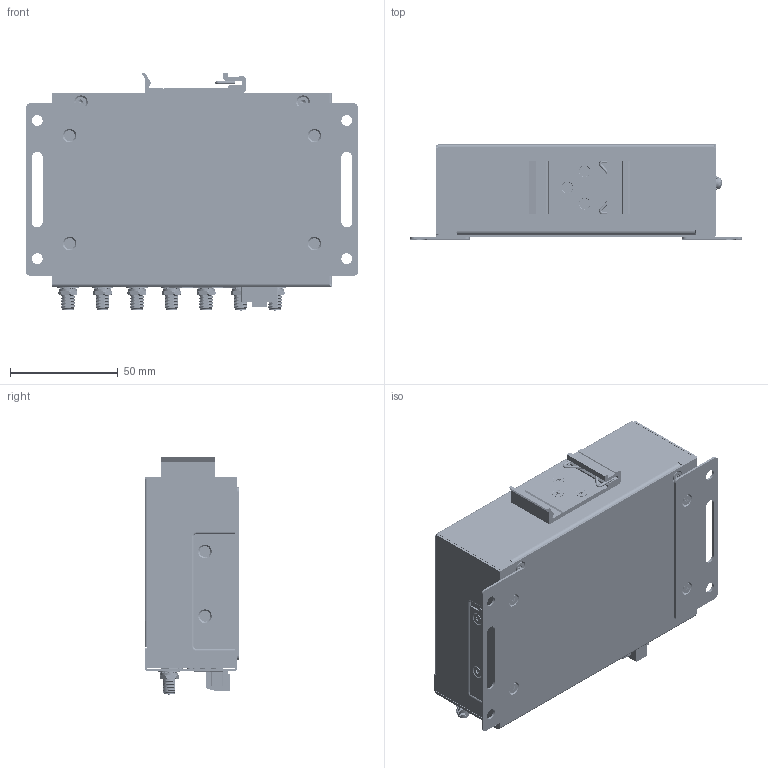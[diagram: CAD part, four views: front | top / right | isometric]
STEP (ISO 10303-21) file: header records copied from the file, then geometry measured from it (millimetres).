
FILE_DESCRIPTION (( 'STEP AP214' ), '1' );
FILE_NAME ('ICR-4171W.STEP', '2024-11-05T08:48:55', ( '' ), ( '' ), 'SwSTEP 2.0', 'SolidWorks 2024', '' );
FILE_SCHEMA (( 'AUTOMOTIVE_DESIGN' ));
Length unit declared in the file: millimetre
Products named in the file (49): SCR_ZC_M3_L6_PH_PW_2; Pin_header_6x2P; ANT_PG_L150_SMA_I; ChassisBottom; PCB_ICR-4(1,2)xx; Radial_THT_Capacitor; ThermalTape; Case_for_ICR-4(1,2)xx; SCR_BK_M3_L4_TX8_FL_SCR; PCI_Female_Connector_67P; Label_SIM_SD_IO_configuration_SIM; ICR-4171W; ChassisSimCover; Chassis_package-ICR-4(1,2)xx; POST_D6xL4; Dip_Switch_2_positon; SCR_ZC_M3_L10_PH_PW; SCR_ZC_M3_L6_PH_PW; ANT_PG_L200_R-SMA_UFL; SIM_holder; Micro_SD_card_holder; Bottom_Base_for_ICR-4(1,2)xx; POST_D4,5xL5; Pluggable_Term_Blk_2P; ChassisTop; CON_WR2; DIN_25_AL; SCR_BK_M3_L5_PH_FL_TW; SCR_BK_M3_L5_PH_FL_TW_GLUE; BAT_CR1225; RJ45_2x_Connector; Label_41W2C4G1; B-ICR41(2)xx-4_B-ICR41xxLS-4; WAS_ZC_2_SR; Tact_Switch_right_angle; FN990A28; CDS_M_H5_W7,3_CHM3; Lightpipe_4P; Battery_SMT_holder_Keystone-PN3000; Thermal_pad_46x30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
Assembly tree (72 placements, depth 5):
  ICR-4171W
    Chassis_package-ICR-4(1,2)xx
      Case_for_ICR-4(1,2)xx
        Bottom_Base_for_ICR-4(1,2)xx
          ChassisBottom
          CDS_M_H5_W7,3_CHM3  x4
        ChassisTop
      ChassisSimCover
      ThermalTape
      chassisWallMount  x2
      AlluminiumCooler
    B-ICR41(2)xx-4_B-ICR41xxLS-4
      PCB_ICR-4(1,2)xx
      PCI_Female_Connector_52P
      POST_D4,5xL5
      Battery_SMT_holder_Keystone-PN3000
      Lightpipe_4P  x2
      RJ45_2x_Connector
      USB_3_0_type_A
      POST_D6xL4
      PCI_Female_Connector_67P
      SIM_holder  x2
      Tact_Switch_right_angle
      Radial_THT_Capacitor
      Pluggable_Term_Blk_2P
      Micro_SD_card_holder
        Micro_SD_card_holder_part_1
        Micro_SD_card_holder_part_2
      Dip_Switch_2_positon
      Pin_header_6x2P
    CON_WR2
    BAT_CR1225
    DIN_25_AL
    Label_SIM_SD_IO_configuration_SIM
    Label_41W2C4G1
    Thermal_pad_46x30
    CoolingPadCellular  x2
    WPEQ-268AXI
    FN990A28
    ANT_PG_L200_R-SMA_UFL  x2
    ANT_PG_L150_SMA_I  x5
    SCR_BK_M3_L4_TX8_FL_SCR  x4
    SCR_BK_M3_L5_PH_FL_TW_GLUE  x7
    SCR_BK_M3_L5_PH_FL_TW  x2
    SCR_ZC_M3_L6_PH_PW_2
    SCR_ZC_M3_L10_PH_PW
    SCR_ZC_M3_L6_PH_PW  x3
    SCR_ZC_M2_L5_PH_P_M2x5
    WAS_ZC_2_SR
Bounding box: 153.9 x 44 x 110.72 mm (x, y, z)
Volume: 99732.5 mm3; surface area: 206428.1 mm2
Topology: 180 solids, 247 shells, 16173 faces, 44353 edges, 29125 vertices
Faces by surface type: plane 9014, bspline 3404, cylinder 3141, cone 451, torus 127, sphere 36
Entity records: 545401 total; most frequent: CARTESIAN_POINT 164157, ORIENTED_EDGE 74448, DIRECTION 56317, EDGE_CURVE 37421, VERTEX_POINT 24519, VECTOR 23831, LINE 23831, AXIS2_PLACEMENT_3D 16243
